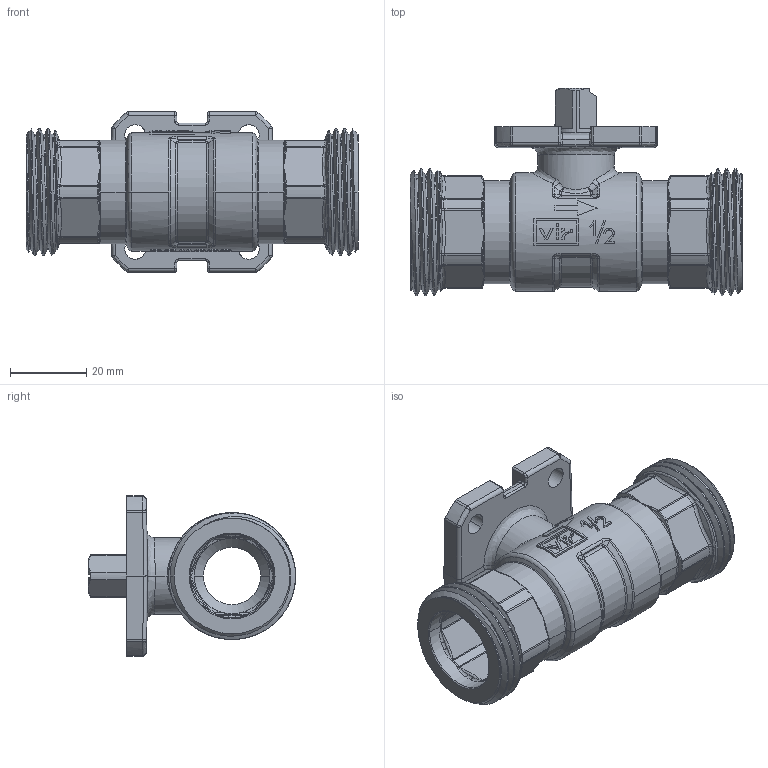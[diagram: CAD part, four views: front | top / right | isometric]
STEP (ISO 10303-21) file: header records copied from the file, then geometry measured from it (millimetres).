
FILE_DESCRIPTION((''),'2;1');
FILE_NAME('H988F0015_2346_SW0001','2015-05-22T',('64ciro'),('Vir spa'),'PRO/ENGINEER BY PARAMETRIC TECHNOLOGY CORPORATION, 2010280','PRO/ENGINEER BY PARAMETRIC TECHNOLOGY CORPORATION, 2010280','');
FILE_SCHEMA(('CONFIG_CONTROL_DESIGN'));
Products named in the file (1): H988F0015_2346_SW0001
Bounding box: 86.9 x 54.23 x 42 mm (x, y, z)
Volume: 44984 mm3; surface area: 26215 mm2
Topology: 1 solids, 1 shells, 1303 faces, 3254 edges, 2002 vertices
Faces by surface type: plane 542, bspline 254, cylinder 245, torus 136, cone 88, sphere 38
Entity records: 53549 total; most frequent: CARTESIAN_POINT 25434, ORIENTED_EDGE 6508, DIRECTION 4985, EDGE_CURVE 3254, AXIS2_PLACEMENT_3D 2019, VERTEX_POINT 2002, EDGE_LOOP 1366, B_SPLINE_CURVE_WITH_KNOTS 1337
